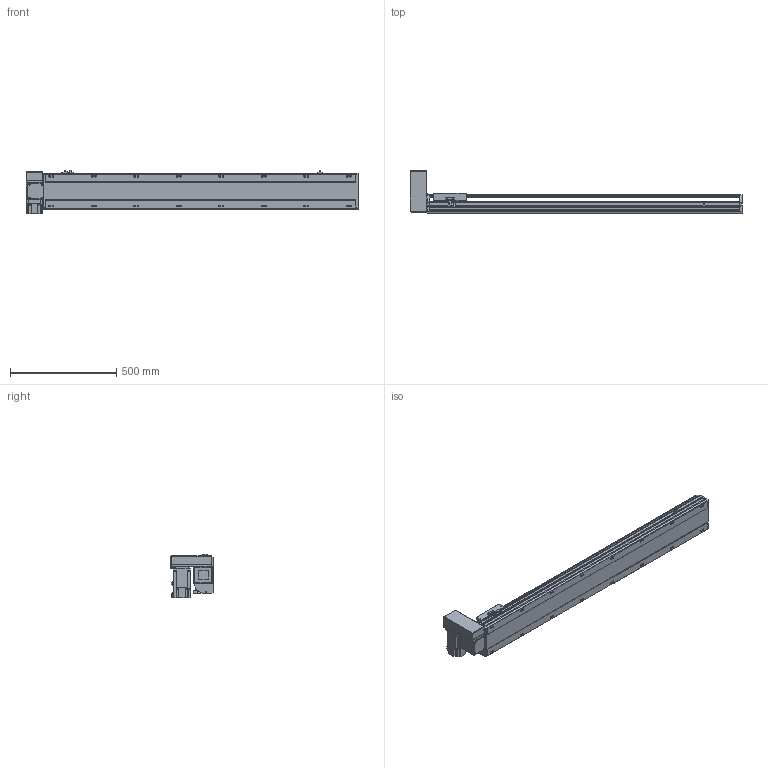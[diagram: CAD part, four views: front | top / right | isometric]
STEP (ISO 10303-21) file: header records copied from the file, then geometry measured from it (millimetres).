
FILE_DESCRIPTION( ( 'STEP AP214' ), '1' );
FILE_NAME( 'x:/temp/worker_5/temp/exporttempdir_3988_124_8vMPM/format_0/PBS170-P40-S1200-RU-T75-C1-N(0).stp', '2022-06-08T05:58:17', ( 'License CC BY-ND 4.0' ), ( 'CADENAS' ), ' ', 'PARTsolutions', ' ' );
FILE_SCHEMA( ( 'AUTOMOTIVE_DESIGN { 1 0 10303 214 1 1 1 1 }' ) );
Length unit declared in the file: millimetre
Products named in the file (7): PBS170-P40-S1200-RU-T75-C1-N(0); _PBS170-S1200()_body; _PBS170T-RU_motors; _T75-p1; _PBS170_sliser; _PBS170_plant; _PBS170_sensor
Assembly tree (8 placements, depth 2):
  PBS170-P40-S1200-RU-T75-C1-N(0)
    _PBS170-S1200()_body
    _PBS170T-RU_motors
    _T75-p1
    _PBS170_sliser
    _PBS170_plant
    _PBS170_sensor  x3
Bounding box: 1563 x 206 x 205.3 mm (x, y, z)
Volume: 12417725.7 mm3; surface area: 1611227.9 mm2
Topology: 8 solids, 8 shells, 1082 faces, 2875 edges, 1874 vertices
Faces by surface type: plane 687, cylinder 339, cone 46, sphere 8, torus 2
Full cylindrical faces by diameter (mm): 3.242 x4, 4 x2, 4.4 x4, 4.5 x6, 4.917 x4, 6 x9, 6.647 x24, 7 x2, 7.5 x4, 8 x8, 8.5 x16, 10 x4, 10.5 x16, 11 x2, 30 x2, 40 x1, 70 x1
Entity records: 39740 total; most frequent: CARTESIAN_POINT 6221, DIRECTION 5300, ORIENTED_EDGE 5028, EDGE_CURVE 2514, AXIS2_PLACEMENT_3D 1837, VERTEX_POINT 1730, LINE 1626, VECTOR 1626
